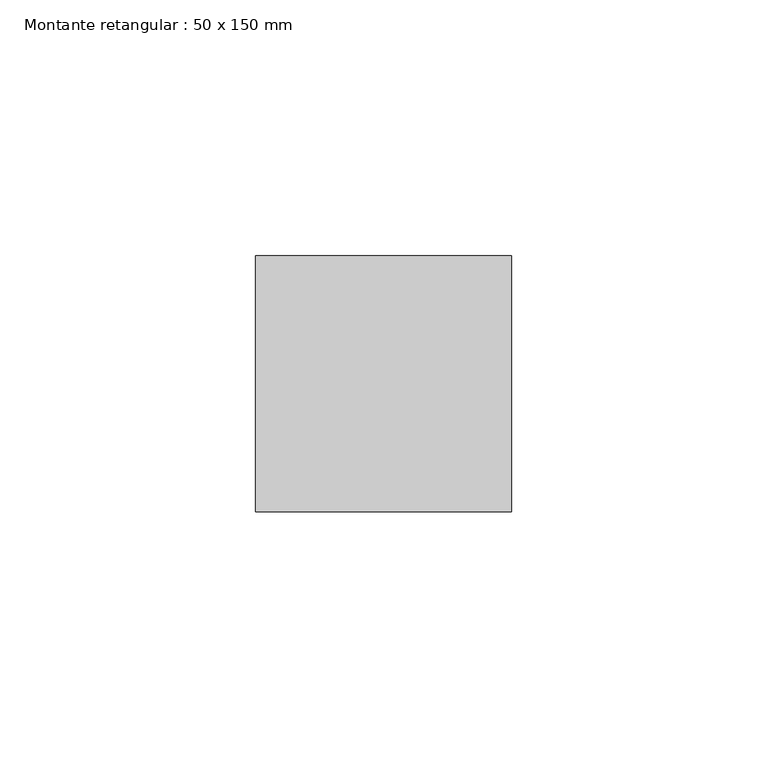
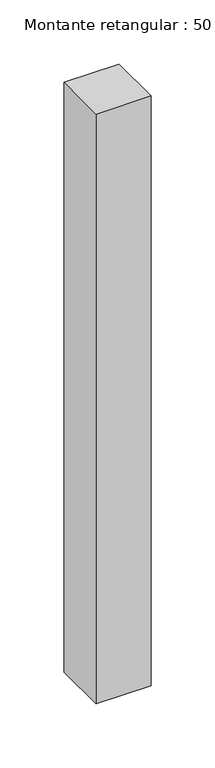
"""IFC4 building model written with IfcOpenShell, lengths in millimetres: member geometry, Montante retangular : 50 x 150 mm."""

import ifcopenshell
import ifcopenshell.guid

model = None  # the IFC model being written
_history = None  # IfcOwnerHistory: only IFC2X3 demands one
_inside = {}  # id of a spatial element -> (the spatial element, [elements in it])
_under = {}  # id of a project, library or spatial element -> (it, [spatial elements below it])
_declared = {}  # id of a project -> (the project, [libraries it declares])
_typed = {}  # id of a type object -> (the type object, [elements of that type])
_made_of = {}  # id of a material, layer set ... -> (it, [elements and type objects made of it])


def new_model(schema):
    """Start an empty IFC model of exactly this schema.

    Asked for "IFC4X3", IfcOpenShell would pick the latest addendum, in which some entities
    have other attributes; the version numbers below select the first issue.
    IFC2X3 requires an IfcOwnerHistory on every rooted entity: one is made here for all.
    """
    global model, _history
    if schema == "IFC4X3":
        model = ifcopenshell.file(schema_version=(4, 3, 0, 0))
    else:
        model = ifcopenshell.file(schema=schema)
    _inside.clear()
    _under.clear()
    _declared.clear()
    _typed.clear()
    _made_of.clear()
    _history = None
    if model.schema == "IFC2X3":
        org = make("IfcOrganization", Name="unknown")
        user = make(
            "IfcPersonAndOrganization",
            ThePerson=make("IfcPerson", FamilyName="unknown"),
            TheOrganization=org,
        )
        app = make(
            "IfcApplication",
            ApplicationDeveloper=org,
            Version="unknown",
            ApplicationFullName="unknown",
            ApplicationIdentifier="unknown",
        )
        _history = make(
            "IfcOwnerHistory",
            OwningUser=user,
            OwningApplication=app,
            ChangeAction="ADDED",
            CreationDate=0,
        )
    return model


def make(cls, **values):
    """One entity of the class cls with the attributes given. An attribute that is None is left unset."""
    return model.create_entity(
        cls, **{name: value for name, value in values.items() if value is not None}
    )


def rooted(cls, **values):
    """An entity with a GlobalId (a new one), such as an element, a storey or a relation."""
    return make(cls, GlobalId=ifcopenshell.guid.new(), OwnerHistory=_history, **values)


def si_unit(unit_type, name, prefix=None):
    """IfcSIUnit, for example si_unit("LENGTHUNIT", "METRE", prefix="MILLI")."""
    return make("IfcSIUnit", UnitType=unit_type, Prefix=prefix, Name=name)


def assignment(units):
    """IfcUnitAssignment: the units of a project."""
    return None if units is None else make("IfcUnitAssignment", Units=units)


def point(xyz):
    """IfcCartesianPoint."""
    return None if xyz is None else make("IfcCartesianPoint", Coordinates=xyz)


def direction(xyz):
    """IfcDirection."""
    return None if xyz is None else make("IfcDirection", DirectionRatios=xyz)


def frame(location, z_axis=None, x_axis=None):
    """IfcAxis2Placement3D, a coordinate frame: its origin and axes. An axis left out is left unset."""
    return make(
        "IfcAxis2Placement3D",
        Location=point(location),
        Axis=direction(z_axis),
        RefDirection=direction(x_axis),
    )


def origin():
    """The frame at (0, 0, 0) with its axes left unset."""
    return frame((0.0, 0.0, 0.0))


def place(relative_to, where):
    """IfcLocalPlacement: puts the frame where relative to a parent placement (None: the world)."""
    return make(
        "IfcLocalPlacement", PlacementRelTo=relative_to, RelativePlacement=where
    )


def context(
    kind, dimensions, precision=None, world=None, true_north=None, identifier=None
):
    """IfcGeometricRepresentationContext, for example the 3D "Model" context."""
    return make(
        "IfcGeometricRepresentationContext",
        ContextIdentifier=identifier,
        ContextType=kind,
        CoordinateSpaceDimension=dimensions,
        Precision=precision,
        WorldCoordinateSystem=world,
        TrueNorth=true_north,
    )


def project(units=None, contexts=None):
    """IfcProject with its units and contexts."""
    return rooted(
        "IfcProject",
        Name="project",
        RepresentationContexts=contexts,
        UnitsInContext=assignment(units),
    )


def spatial(cls, under=None, at=None, **own):
    """A site, building, storey or space (cls), placed at a placement, below another one or the project."""
    s = rooted(cls, ObjectPlacement=at, **own)
    if under is not None:
        _under.setdefault(under.id(), (under, []))[1].append(s)
    return s


def polyline(points):
    """IfcPolyline through the points."""
    return make("IfcPolyline", Points=[point(p) for p in points])


def outline(outer, holes=None, kind="AREA"):
    """IfcArbitraryClosedProfileDef: a profile drawn as a closed curve; with holes, ...WithVoids."""
    if holes is None:
        return make("IfcArbitraryClosedProfileDef", ProfileType=kind, OuterCurve=outer)
    return make(
        "IfcArbitraryProfileDefWithVoids",
        ProfileType=kind,
        OuterCurve=outer,
        InnerCurves=holes,
    )


def extrude(swept, where, along, depth):
    """IfcExtrudedAreaSolid: the profile swept, set in the frame where, extruded along a direction by depth."""
    return make(
        "IfcExtrudedAreaSolid",
        SweptArea=swept,
        Position=where,
        ExtrudedDirection=direction(along),
        Depth=depth,
    )


def shape(context_of_items, identifier, shape_type, items):
    """IfcShapeRepresentation: the items that make up one representation, for example the "Body"."""
    return make(
        "IfcShapeRepresentation",
        ContextOfItems=context_of_items,
        RepresentationIdentifier=identifier,
        RepresentationType=shape_type,
        Items=items,
    )


def source(mapping_origin, context_of_items, identifier, shape_type, items):
    """IfcRepresentationMap: a shape defined once, which mapped items show again and again."""
    return make(
        "IfcRepresentationMap",
        MappingOrigin=mapping_origin,
        MappedRepresentation=shape(context_of_items, identifier, shape_type, items),
    )


def transform(
    local_origin,
    x_axis=None,
    y_axis=None,
    z_axis=None,
    scale=None,
    scale2=None,
    scale3=None,
    uniform=True,
):
    """IfcCartesianTransformationOperator3D, or its non-uniform kind. x_axis, y_axis, z_axis: its Axis1, 2, 3."""
    if uniform:
        return make(
            "IfcCartesianTransformationOperator3D",
            Axis1=direction(x_axis),
            Axis2=direction(y_axis),
            LocalOrigin=point(local_origin),
            Scale=scale,
            Axis3=direction(z_axis),
        )
    return make(
        "IfcCartesianTransformationOperator3DnonUniform",
        Axis1=direction(x_axis),
        Axis2=direction(y_axis),
        LocalOrigin=point(local_origin),
        Scale=scale,
        Axis3=direction(z_axis),
        Scale2=scale2,
        Scale3=scale3,
    )


def mapped(mapping_source, mapping_target):
    """IfcMappedItem: shows the shape of a source again, moved by a transform."""
    return make(
        "IfcMappedItem", MappingSource=mapping_source, MappingTarget=mapping_target
    )


def made_of(thing, what):
    """Note that an element or type object is made of a material, layer set ...; save() writes the relation."""
    if what is not None:
        _made_of.setdefault(what.id(), (what, []))[1].append(thing)
    return thing


def element(
    cls,
    number,
    at=None,
    inside=None,
    cuts=None,
    type_object=None,
    material=None,
    context=None,
    identifier="Body",
    shape_type=None,
    held_by="IfcProductDefinitionShape",
    body=None,
    shapes=None,
    **own,
):
    """One element of the class cls, such as IfcWall. Its Tag is "e" and its number.

    at: its placement. inside: the storey or other place that contains it. cuts: it is an
    opening in that element (IfcRelVoidsElement). A single representation is given by context,
    identifier, shape_type and body (its items); several are given by shapes. held_by: the class
    of the entity that holds the representations. save() writes the other relations.
    """
    e = rooted(cls, Tag="e%d" % number, ObjectPlacement=at, **own)
    if body is not None:
        shapes = [shape(context, identifier, shape_type, body)]
    if shapes is not None:
        e.Representation = make(held_by, Representations=shapes)
    if inside is not None:
        _inside.setdefault(inside.id(), (inside, []))[1].append(e)
    if cuts is not None:
        rooted(
            "IfcRelVoidsElement", RelatingBuildingElement=cuts, RelatedOpeningElement=e
        )
    if type_object is not None:
        _typed.setdefault(type_object.id(), (type_object, []))[1].append(e)
    return made_of(e, material)


def aggregate(whole, parts):
    """IfcRelAggregates: a whole, such as a stair, and the parts it consists of."""
    return rooted("IfcRelAggregates", RelatingObject=whole, RelatedObjects=parts)


def save(model, path):
    """Write the relations noted so far, then the file.

    IfcRelAggregates (storeys below a building ...), IfcRelContainedInSpatialStructure (elements
    in a storey), IfcRelDefinesByType, IfcRelAssociatesMaterial and IfcRelDeclares: one each for
    every whole, place, type object, material and project.
    """
    for whole, parts in _under.values():
        aggregate(whole, parts)
    for where, things in _inside.values():
        rooted(
            "IfcRelContainedInSpatialStructure",
            RelatedElements=things,
            RelatingStructure=where,
        )
    for kind, things in _typed.values():
        rooted("IfcRelDefinesByType", RelatedObjects=things, RelatingType=kind)
    for what, things in _made_of.values():
        rooted("IfcRelAssociatesMaterial", RelatedObjects=things, RelatingMaterial=what)
    for by, libraries in _declared.values():
        rooted("IfcRelDeclares", RelatingContext=by, RelatedDefinitions=libraries)
    model.write(path)


def montante_retangular_50_x_150_mm_381db46f(model_context):
    return source(origin(), model_context, "Body", "SweptSolid", [
        extrude(outline(polyline([(0.0, 25.0), (0.0, -25.0), (-50.0, -25.0), (-50.0, 25.0), (0.0, 25.0)])), frame((0.0, 0.0, -562.5), z_axis=(0.0, 0.0, 1.0), x_axis=(1.0, 0.0, 0.0)), (0.0, 0.0, 1.0), 562.5),
    ])


if __name__ == "__main__":
    model = new_model("IFC4")
    model_context = context("Model", 3, world=origin())
    ifc_project = project(units=[si_unit("LENGTHUNIT", "METRE", prefix="MILLI")], contexts=[model_context])
    site = spatial("IfcSite", under=ifc_project)
    building = spatial("IfcBuilding", under=site)
    placement = place(None, origin())
    montante_retangular_50_x_150_mm_shape = montante_retangular_50_x_150_mm_381db46f(model_context)
    element("IfcMember", 1, ObjectType="Montante retangular : 50 x 150 mm", at=placement, inside=building, context=model_context, shape_type="MappedRepresentation", body=[
        mapped(montante_retangular_50_x_150_mm_shape, transform((0.0, 0.0, 0.0), x_axis=(1.0, 0.0, 0.0), y_axis=(0.0, 1.0, 0.0), z_axis=(0.0, 0.0, 1.0))),
    ])
    save(model, "model.ifc")
